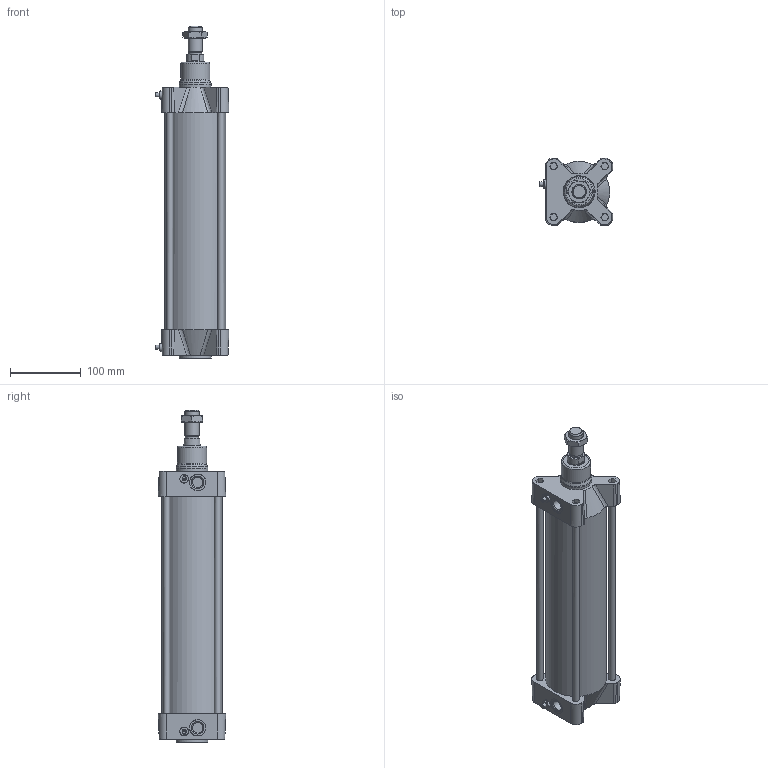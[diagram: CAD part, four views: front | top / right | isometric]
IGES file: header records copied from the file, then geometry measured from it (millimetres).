
Global section: file name: 1393_080_0250_01; native system: Autodesk Inventor 2014; preprocessor: unknown; author: A. Manieri; date: 20151130.150758; units: millimetre
Bounding box: 104 x 95 x 468 mm (x, y, z)
Volume: 1267097.8 mm3; surface area: 319288.7 mm2
Topology: 3 solids, 5 shells, 233 faces, 578 edges, 377 vertices
Faces by surface type: bspline 233
